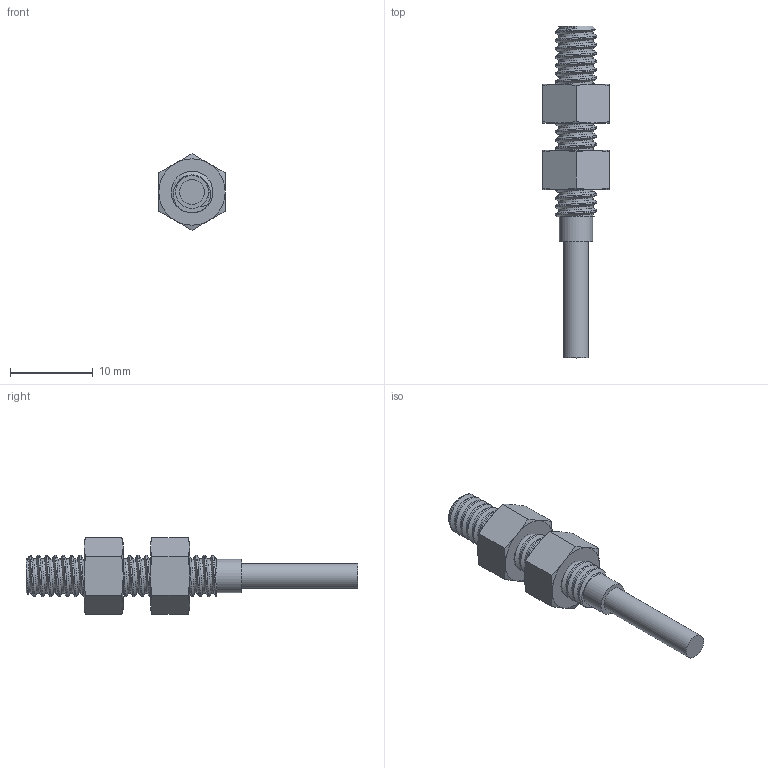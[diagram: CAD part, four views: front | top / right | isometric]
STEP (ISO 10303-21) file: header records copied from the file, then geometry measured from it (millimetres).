
FILE_DESCRIPTION(/* description */ ('Katalogmodell Elobau'),/* implementation_level */ '2;1');
FILE_NAME(/* name */ '133____A.stp',/* time_stamp */ '2014-09-23T07:23:56+02:00',/* author */ ('Elobau GmbH & Co. KG'),/* organization */ ('Elobau GmbH & Co. KG'),/* preprocessor_version */ 'ST-DEVELOPER v15',/* originating_system */ 'SIEMENS PLM Software NX 8.5',/* authorisation */ '');
FILE_SCHEMA (('AUTOMOTIVE_DESIGN { 1 0 10303 214 3 1 1 1 }'));
Length unit declared in the file: millimetre
Products named in the file (1): 133..._A
Bounding box: 8 x 40 x 9.24 mm (x, y, z)
Volume: 1025.3 mm3; surface area: 1171.3 mm2
Topology: 3 solids, 3 shells, 53 faces, 110 edges, 65 vertices
Faces by surface type: cone 26, plane 21, cylinder 4, bspline 2
Full cylindrical faces by diameter (mm): 3 x1, 4 x1
Entity records: 8042 total; most frequent: CARTESIAN_POINT 7051, ORIENTED_EDGE 208, DIRECTION 182, EDGE_CURVE 104, AXIS2_PLACEMENT_3D 84, VERTEX_POINT 63, EDGE_LOOP 57, ADVANCED_FACE 52
